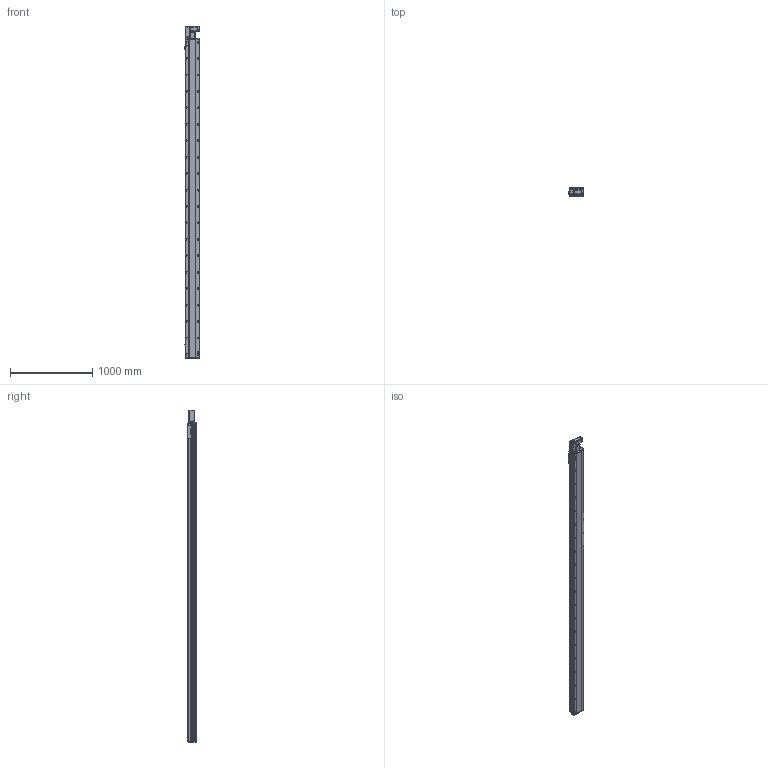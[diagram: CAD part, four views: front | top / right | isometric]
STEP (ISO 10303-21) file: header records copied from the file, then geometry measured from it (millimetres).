
FILE_DESCRIPTION (( 'STEP AP214' ), '1' );
FILE_NAME ('RTB17S-XX-3600-L-M40-C4.STEP', '2025-12-11T06:09:45', ( '' ), ( '' ), 'SwSTEP 2.0', 'SolidWorks 2018', '' );
FILE_SCHEMA (( 'AUTOMOTIVE_DESIGN' ));
Length unit declared in the file: millimetre
Products named in the file (14): RTB17S-L-々湍釱蚾饜-400W^RTB17S-XX-XX-L-M40-C4; RTB14-L-018P^RTB17S-L-々湍釱蚾饜-400W_RTB17S-XX-XX-L-M40-C4; RTB14-L-008-M20--萇儂啣^RTB17S-L-々湍釱蚾饜-400W_RTB17S-XX-XX-L-M40-C4; RTH13-BL-012覜茼え俋离^RTB17S-XX-XX-L-M40-C4; RTB14-L-017P^RTB17S-L-々湍釱蚾饜-400W_RTB17S-XX-XX-L-M40-C4; RTB17S-L-007奻裔^RTB17S-XX-XX-L-M40-C4; RTB14-L-005P--轴承塑胶压盖^RTB17S-L-皮带座装配-400W_RTB17S-XX-XX-L-M40-C4; RTB17S-XX-3600-L-M40-C4; RMP17S-L-014-T20--々湍釱^RTB17S-L-々湍釱蚾饜-400W_RTB17S-XX-XX-L-M40-C4; RTB17S-L-004佪裝蹟譫蟀諉釱^RTB17S-XX-XX-L-M40-C4; 400W侜督萇儂^RTB17S-XX-XX-L-M40-C4; RTB17-R-011菁釱^RTB17S-XX-XX-L-M40-C4; RTB17S-L-001耜醱啣^RTB17S-XX-XX-L-M40-C4; OMRON EE-SX672 传感器^RTB17S-XX-XX-L-M40-C4
Assembly tree (16 placements, depth 3):
  RTB17S-XX-3600-L-M40-C4
    RTB17-R-011菁釱^RTB17S-XX-XX-L-M40-C4
    RTB17S-L-007奻裔^RTB17S-XX-XX-L-M40-C4
    OMRON EE-SX672 传感器^RTB17S-XX-XX-L-M40-C4  x3
    RTB17S-L-001耜醱啣^RTB17S-XX-XX-L-M40-C4
    400W侜督萇儂^RTB17S-XX-XX-L-M40-C4
    RTB17S-L-004佪裝蹟譫蟀諉釱^RTB17S-XX-XX-L-M40-C4
    RTH13-BL-012覜茼え俋离^RTB17S-XX-XX-L-M40-C4
    RTB17S-L-々湍釱蚾饜-400W^RTB17S-XX-XX-L-M40-C4
      RMP17S-L-014-T20--々湍釱^RTB17S-L-々湍釱蚾饜-400W_RTB17S-XX-XX-L-M40-C4
      RTB14-L-005P--轴承塑胶压盖^RTB17S-L-皮带座装配-400W_RTB17S-XX-XX-L-M40-C4
      RTB14-L-008-M20--萇儂啣^RTB17S-L-々湍釱蚾饜-400W_RTB17S-XX-XX-L-M40-C4
      RTB14-L-017P^RTB17S-L-々湍釱蚾饜-400W_RTB17S-XX-XX-L-M40-C4  x2
      RTB14-L-018P^RTB17S-L-々湍釱蚾饜-400W_RTB17S-XX-XX-L-M40-C4
Bounding box: 186 x 108 x 4041 mm (x, y, z)
Volume: 33579738.6 mm3; surface area: 3809323.1 mm2
Topology: 15 solids, 15 shells, 2413 faces, 6789 edges, 4437 vertices
Faces by surface type: plane 1094, cylinder 871, bspline 301, cone 139, torus 8
Entity records: 72617 total; most frequent: CARTESIAN_POINT 20794, ORIENTED_EDGE 10422, DIRECTION 9566, EDGE_CURVE 5211, VERTEX_POINT 3425, AXIS2_PLACEMENT_3D 3355, VECTOR 2856, LINE 2856
